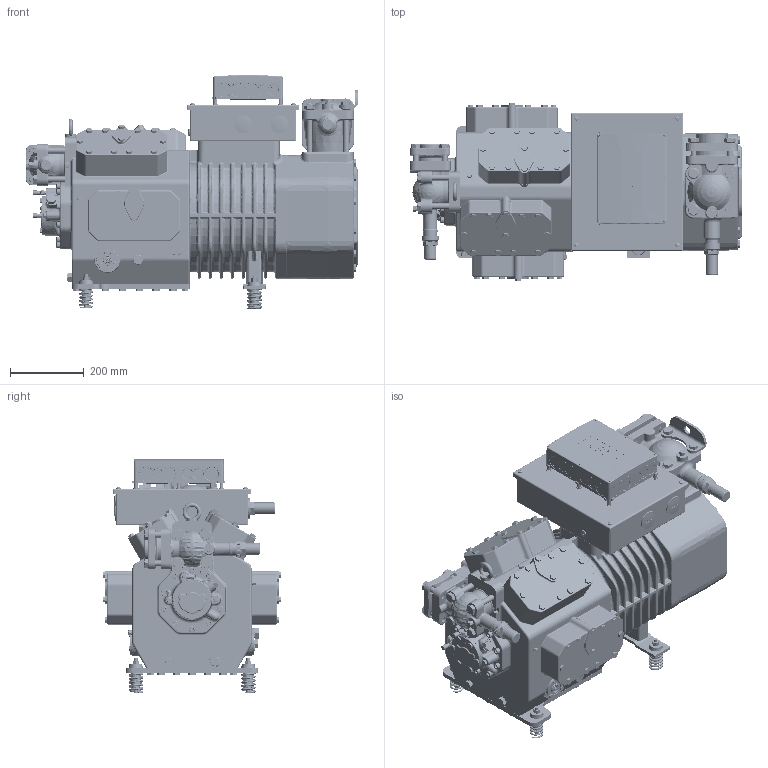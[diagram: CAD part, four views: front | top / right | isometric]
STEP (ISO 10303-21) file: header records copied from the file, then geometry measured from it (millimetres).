
FILE_DESCRIPTION(/* description */ (''),/* implementation_level */ '2;1');
FILE_NAME(/* name */ '8FE-STANDARD.stp',/* time_stamp */ '2023-10-26T09:00:41+02:00',/* author */ (''),/* organization */ (''),/* preprocessor_version */ 'ST-DEVELOPER v19.3',/* originating_system */ 'SIEMENS PLM Software NX2212.3001',/* authorisation */ '');
FILE_SCHEMA (('AUTOMOTIVE_DESIGN { 1 0 10303 214 3 1 1 1 }'));
Products named in the file (11): TERMINAL-BOX-CE8-CM-RC-02; ELECTRICAL-TERMINAL-BOX; SHUT-OFF-VALVE-CPL-D54L-2-1-8; BEARING-CAP-8FC-8GC; PLUG-3-8-18NPTF-COATED; CYL-HEAD-AIR-CYL-D75-U-82; BODY-8FE-60-70; SHUT-OFF-VALVE-D76L-3-1-8; DAMPER-ELEM-COMPL-SPRING-BLACK; DAMPER-ELEM-COMPL-SPRING-ROT; 8FE-STANDARD
Assembly tree (15 placements, depth 2):
  8FE-STANDARD
    DAMPER-ELEM-COMPL-SPRING-ROT  x2
    DAMPER-ELEM-COMPL-SPRING-BLACK  x2
    SHUT-OFF-VALVE-D76L-3-1-8
    BODY-8FE-60-70
    CYL-HEAD-AIR-CYL-D75-U-82  x4
    PLUG-3-8-18NPTF-COATED
    BEARING-CAP-8FC-8GC
    SHUT-OFF-VALVE-CPL-D54L-2-1-8
    ELECTRICAL-TERMINAL-BOX
    TERMINAL-BOX-CE8-CM-RC-02
Bounding box: 901 x 485.36 x 635.65 mm (x, y, z)
Volume: 118381301.4 mm3; surface area: 4301384.6 mm2
Topology: 46 solids, 73 shells, 10181 faces, 25896 edges, 16246 vertices
Faces by surface type: plane 5443, cylinder 1716, cone 1184, bspline 1018, torus 557, sphere 154, extrusion 103, revolution 6
Full cylindrical faces by diameter (mm): 3 x4, 3.3 x6, 3.57 x6, 4 x6, 4.8 x6, 5 x7, 5.795 x4, 6 x3, 7 x5, 7.938 x1, 8.243 x1, 8.5 x6, 8.88 x6, 10 x72, 10.287 x4, 10.29 x3, 10.5 x6, 11 x50, 12 x6, 13 x2, 13.716 x4, 14 x4, 14.16 x4, 14.59 x2, 14.63 x48, 14.782 x4, 15 x10, 16 x28, 16.16 x4, 17 x8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
Entity records: 409542 total; most frequent: CARTESIAN_POINT 165490, ORIENTED_EDGE 44250, DIRECTION 31302, EDGE_CURVE 22125, VERTEX_POINT 14414, AXIS2_PLACEMENT_3D 12702, B_SPLINE_CURVE_WITH_KNOTS 11751, EDGE_LOOP 10360
